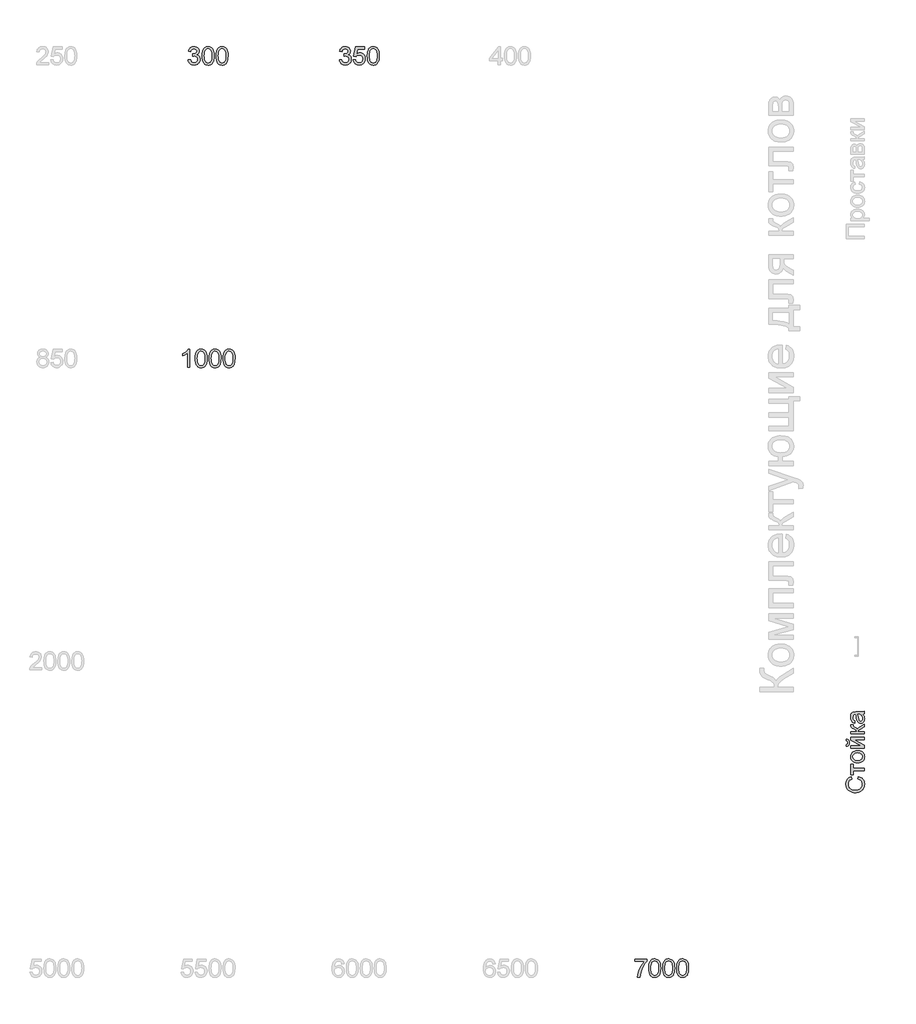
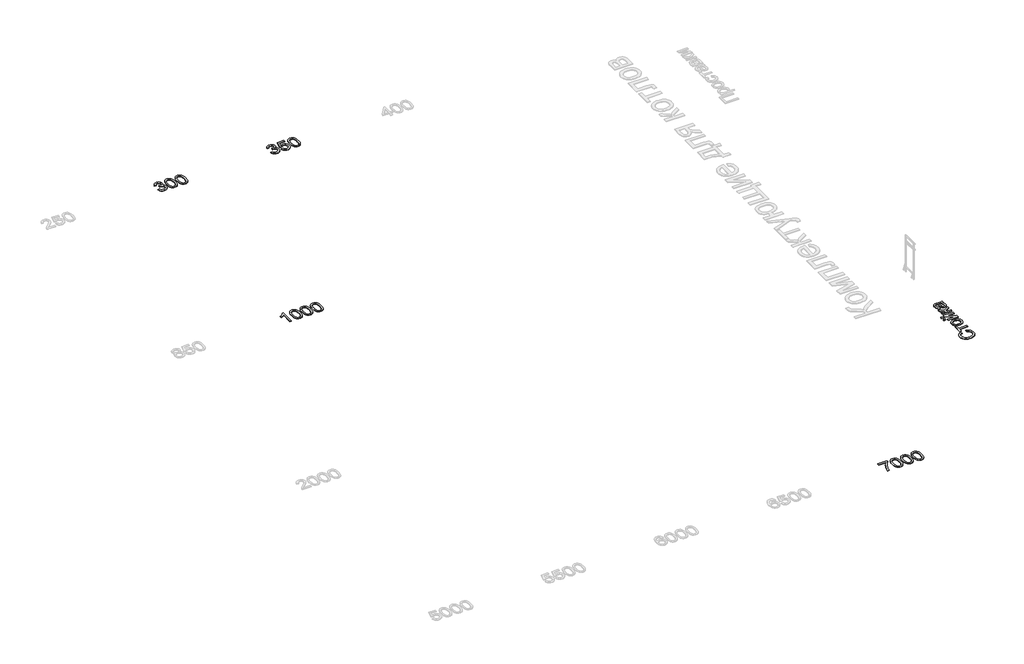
# One storey, part 6 of 8: 5 proxies.
"""IFC4 building model written with IfcOpenShell, lengths in millimetres."""

from ifc_helpers import new_model, si_unit, origin, origin_with_axes, place, context, project, spatial, polyline, outline, extrude, element, save

model = new_model("IFC4")

# Units and contexts
model_context = context("Model", 3, world=origin())
ifc_project = project(units=[si_unit("LENGTHUNIT", "METRE", prefix="MILLI")], contexts=[model_context])

# Site, building, storey
site = spatial("IfcSite", under=ifc_project)
building = spatial("IfcBuilding", under=site)
storey = spatial("IfcBuildingStorey", under=building, Name="Этаж 01", Elevation=0.0)

# Proxies
placement = place(None, origin())
element("IfcBuildingElementProxy", 1, Name="600 мм Arial", ObjectType="600 мм Arial", at=placement, inside=storey, context=model_context, shape_type="SweptSolid", body=[
    extrude(outline(polyline([(2945.4643542, -3535.7908528), (3020.8065868, -3526.3730738), (3037.6739763, -3573.7194865), (3049.0461284, -3591.6261427), (3062.3772522, -3605.6884319), (3077.9708503, -3616.3110245), (3096.1304253, -3623.8985907), (3116.8559772, -3628.4511304), (3140.147506, -3629.9686436), (3167.4443501, -3627.8809133), (3191.7981382, -3621.6177223), (3213.2088703, -3611.1790707), (3231.6765464, -3596.5649584), (3246.5481761, -3578.8698345), (3257.1707687, -3559.1881477), (3263.5443243, -3537.5198982), (3265.6688428, -3513.8650859), (3263.5627184, -3491.3369122), (3257.2443451, -3470.8412866), (3246.713723, -3452.378209), (3231.970852, -3435.9476793), (3213.9814225, -3422.4602057), (3193.7111245, -3412.8262959), (3171.1599582, -3407.0459501), (3146.3279235, -3405.1191682), (3122.5259585, -3407.1793073), (3093.500069, -3413.3597248), (3101.8877785, -3338.0174922), (3113.954308, -3338.900409), (3159.0934288, -3333.4925437), (3199.4500837, -3317.2689477), (3216.0599557, -3305.0000832), (3227.9241501, -3289.8249509), (3235.0426667, -3271.7435508), (3237.4155056, -3250.755883), (3235.6956572, -3233.7183481), (3230.5361122, -3218.2167205), (3221.9368706, -3204.2510003), (3209.8979323, -3191.8211873), (3195.1458643, -3181.6170605), (3178.4072335, -3174.3283985), (3138.9702836, -3168.4974689), (3118.3137096, -3169.9689968), (3099.4597574, -3174.3835808), (3082.4084269, -3181.7412207), (3067.1597182, -3192.0419165), (3054.0907103, -3205.2856684), (3043.5784823, -3221.4724762), (3035.6230341, -3240.6023399), (3030.2243659, -3262.6752596), (2954.8821333, -3253.2574805), (2963.8124687, -3217.2878185), (2977.0654176, -3185.6039816), (2994.6409799, -3158.20597), (3016.5391556, -3135.0937837), (3042.0701661, -3116.7456692), (3070.5442325, -3103.6398731), (3101.9613549, -3095.7763955), (3136.3215333, -3093.1552362), (3183.6863402, -3098.3239783), (3227.1883861, -3113.8302044), (3263.866221, -3138.294357), (3290.7583949, -3170.3368788), (3307.2579023, -3207.253837), (3312.7577382, -3246.341299), (3307.5338138, -3282.7616166), (3291.8620408, -3315.7974197), (3265.9631484, -3343.9403924), (3230.0578657, -3365.6822183), (3255.1658118, -3373.5364989), (3277.2203374, -3384.7385056), (3296.2214425, -3399.2882385), (3312.169127, -3417.1856976), (3324.7874794, -3437.9894244), (3333.8005883, -3461.2579606), (3339.2084536, -3486.9913062), (3341.0110754, -3515.1894611), (3337.4058318, -3553.4124004), (3326.5901012, -3588.6187073), (3308.5638834, -3620.8083819), (3283.3271786, -3649.9814241), (3252.5814408, -3674.1880594), (3218.0281244, -3691.4785132), (3179.6672294, -3701.8527855), (3137.4987557, -3705.3108762), (3099.386181, -3702.3586232), (3064.6581206, -3693.5018642), (3033.3145746, -3678.7405991), (3005.355543, -3658.074828), (2981.9122629, -3632.7185615), (2964.1159713, -3603.8858101), (2951.9666684, -3571.5765739), (2945.4643542, -3535.7908528)])), origin_with_axes(), (0.0, 0.0, 1.0), 20.0),
    extrude(outline(polyline([(3406.9355289, -3399.380209), (3412.472153, -3302.9031558), (3419.392933, -3261.9900794), (3429.082025, -3225.9606365), (3441.4980424, -3194.5205215), (3456.5995983, -3167.3754288), (3474.3866927, -3144.5253583), (3494.8593258, -3125.9703102), (3518.0864752, -3111.6137153), (3544.137119, -3101.3590047), (3573.0112571, -3095.2061784), (3604.7088895, -3093.1552362), (3651.1355973, -3098.0112786), (3692.7062628, -3112.5794056), (3727.4711113, -3136.2894002), (3753.4803684, -3168.5710453), (3773.1252669, -3209.1484293), (3788.7970399, -3257.7456409), (3799.0609476, -3319.4578456), (3802.4822501, -3399.380209), (3797.0008084, -3495.3054393), (3790.1490063, -3536.0805599), (3780.5564832, -3572.0640176), (3768.2370349, -3603.5179281), (3753.2044569, -3630.7044076), (3735.4587491, -3653.6234559), (3714.9999117, -3672.275073), (3691.7451711, -3686.7282369), (3665.6117538, -3697.0519254), (3636.59966, -3703.2461385), (3604.7088895, -3705.3108762), (3563.2118005, -3701.7240268), (3526.423601, -3690.9634784), (3494.344291, -3673.0292311), (3466.9738705, -3647.921285), (3440.7070961, -3602.5338438), (3421.9451143, -3545.9811841), (3410.6879253, -3478.2633058), (3406.9355289, -3399.380209)]), holes=[polyline([(3482.2777615, -3399.2330562), (3484.4850535, -3464.7298469), (3491.1069294, -3517.746241), (3502.1433893, -3558.2822383), (3517.5944331, -3586.337839), (3536.2828384, -3605.426316), (3557.031383, -3619.0609424), (3579.8400667, -3627.2417183), (3604.7088895, -3629.9686436), (3629.5777124, -3627.2325213), (3652.3863961, -3619.0241542), (3673.1349406, -3605.3435426), (3691.823346, -3586.1906862), (3707.2743898, -3558.0891003), (3718.3108496, -3517.5623), (3724.9327256, -3464.6102853), (3727.1400175, -3399.2330562), (3725.006302, -3335.4699094), (3718.6051552, -3283.3870159), (3707.9365774, -3242.9843758), (3693.0005684, -3214.2619891), (3674.6248627, -3194.2400115), (3653.6371949, -3179.9385989), (3630.0375649, -3171.3577514), (3603.8259727, -3168.4974689), (3579.0859086, -3171.0174605), (3556.663501, -3178.5774355), (3536.5587499, -3191.1773939), (3518.7716555, -3208.8173355), (3502.8055769, -3240.0873051), (3491.401235, -3282.2465818), (3484.5586299, -3335.2951655), (3482.2777615, -3399.2330562)])]), origin_with_axes(), (0.0, 0.0, 1.0), 20.0),
    extrude(outline(polyline([(3868.4067037, -3399.380209), (3873.9433277, -3302.9031558), (3880.8641077, -3261.9900794), (3890.5531998, -3225.9606365), (3902.9692171, -3194.5205215), (3918.070773, -3167.3754288), (3935.8578675, -3144.5253583), (3956.3305005, -3125.9703102), (3979.55765, -3111.6137153), (4005.6082938, -3101.3590047), (4034.4824319, -3095.2061784), (4066.1800643, -3093.1552362), (4112.6067721, -3098.0112786), (4154.1774375, -3112.5794056), (4188.9422861, -3136.2894002), (4214.9515431, -3168.5710453), (4234.5964417, -3209.1484293), (4250.2682147, -3257.7456409), (4260.5321223, -3319.4578456), (4263.9534249, -3399.380209), (4258.4719832, -3495.3054393), (4251.620181, -3536.0805599), (4242.027658, -3572.0640176), (4229.7082097, -3603.5179281), (4214.6756316, -3630.7044076), (4196.9299239, -3653.6234559), (4176.4710864, -3672.275073), (4153.2163458, -3686.7282369), (4127.0829286, -3697.0519254), (4098.0708347, -3703.2461385), (4066.1800643, -3705.3108762), (4024.6829752, -3701.7240268), (3987.8947757, -3690.9634784), (3955.8154657, -3673.0292311), (3928.4450453, -3647.921285), (3902.1782708, -3602.5338438), (3883.4162891, -3545.9811841), (3872.1591, -3478.2633058), (3868.4067037, -3399.380209)]), holes=[polyline([(3943.7489363, -3399.2330562), (3945.9562283, -3464.7298469), (3952.5781042, -3517.746241), (3963.614564, -3558.2822383), (3979.0656078, -3586.337839), (3997.7540132, -3605.426316), (4018.5025577, -3619.0609424), (4041.3112414, -3627.2417183), (4066.1800643, -3629.9686436), (4091.0488872, -3627.2325213), (4113.8575709, -3619.0241542), (4134.6061154, -3605.3435426), (4153.2945207, -3586.1906862), (4168.7455645, -3558.0891003), (4179.7820244, -3517.5623), (4186.4039003, -3464.6102853), (4188.6111923, -3399.2330562), (4186.4774767, -3335.4699094), (4180.07633, -3283.3870159), (4169.4077521, -3242.9843758), (4154.4717431, -3214.2619891), (4136.0960375, -3194.2400115), (4115.1083696, -3179.9385989), (4091.5087397, -3171.3577514), (4065.2971475, -3168.4974689), (4040.5570833, -3171.0174605), (4018.1346757, -3178.5774355), (3998.0299247, -3191.1773939), (3980.2428302, -3208.8173355), (3964.2767516, -3240.0873051), (3952.8724098, -3282.2465818), (3946.0298047, -3335.2951655), (3943.7489363, -3399.2330562)])]), origin_with_axes(), (0.0, 0.0, 1.0), 20.0),
])
element("IfcBuildingElementProxy", 2, Name="600 мм Arial", ObjectType="600 мм Arial", at=placement, inside=storey, context=model_context, shape_type="SweptSolid", body=[
    extrude(outline(polyline([(7945.4643542, -3535.7908528), (8020.8065868, -3526.3730738), (8037.6739763, -3573.7194865), (8049.0461284, -3591.6261427), (8062.3772522, -3605.6884319), (8077.9708503, -3616.3110245), (8096.1304253, -3623.8985907), (8116.8559772, -3628.4511304), (8140.147506, -3629.9686436), (8167.4443501, -3627.8809133), (8191.7981382, -3621.6177223), (8213.2088703, -3611.1790707), (8231.6765464, -3596.5649584), (8246.5481761, -3578.8698345), (8257.1707687, -3559.1881477), (8263.5443243, -3537.5198982), (8265.6688428, -3513.8650859), (8263.5627184, -3491.3369122), (8257.2443451, -3470.8412866), (8246.713723, -3452.378209), (8231.970852, -3435.9476793), (8213.9814225, -3422.4602057), (8193.7111245, -3412.8262959), (8171.1599582, -3407.0459501), (8146.3279235, -3405.1191682), (8122.5259585, -3407.1793073), (8093.500069, -3413.3597248), (8101.8877785, -3338.0174922), (8113.954308, -3338.900409), (8159.0934288, -3333.4925437), (8199.4500837, -3317.2689477), (8216.0599557, -3305.0000832), (8227.9241501, -3289.8249509), (8235.0426667, -3271.7435508), (8237.4155056, -3250.755883), (8235.6956572, -3233.7183481), (8230.5361122, -3218.2167205), (8221.9368706, -3204.2510003), (8209.8979323, -3191.8211873), (8195.1458643, -3181.6170605), (8178.4072335, -3174.3283985), (8138.9702836, -3168.4974689), (8118.3137096, -3169.9689968), (8099.4597574, -3174.3835808), (8082.4084269, -3181.7412207), (8067.1597182, -3192.0419165), (8054.0907103, -3205.2856684), (8043.5784823, -3221.4724762), (8035.6230341, -3240.6023399), (8030.2243659, -3262.6752596), (7954.8821333, -3253.2574805), (7963.8124687, -3217.2878185), (7977.0654176, -3185.6039816), (7994.6409799, -3158.20597), (8016.5391556, -3135.0937837), (8042.0701661, -3116.7456692), (8070.5442325, -3103.6398731), (8101.9613549, -3095.7763955), (8136.3215333, -3093.1552362), (8183.6863402, -3098.3239783), (8227.1883861, -3113.8302044), (8263.866221, -3138.294357), (8290.7583949, -3170.3368788), (8307.2579023, -3207.253837), (8312.7577382, -3246.341299), (8307.5338138, -3282.7616166), (8291.8620408, -3315.7974197), (8265.9631484, -3343.9403924), (8230.0578657, -3365.6822183), (8255.1658118, -3373.5364989), (8277.2203374, -3384.7385056), (8296.2214425, -3399.2882385), (8312.169127, -3417.1856976), (8324.7874794, -3437.9894244), (8333.8005883, -3461.2579606), (8339.2084536, -3486.9913062), (8341.0110754, -3515.1894611), (8337.4058318, -3553.4124004), (8326.5901012, -3588.6187073), (8308.5638834, -3620.8083819), (8283.3271786, -3649.9814241), (8252.5814408, -3674.1880594), (8218.0281244, -3691.4785132), (8179.6672294, -3701.8527855), (8137.4987557, -3705.3108762), (8099.386181, -3702.3586232), (8064.6581206, -3693.5018642), (8033.3145746, -3678.7405991), (8005.355543, -3658.074828), (7981.9122629, -3632.7185615), (7964.1159713, -3603.8858101), (7951.9666684, -3571.5765739), (7945.4643542, -3535.7908528)])), origin_with_axes(), (0.0, 0.0, 1.0), 20.0),
    extrude(outline(polyline([(8406.9355289, -3535.7908528), (8482.2777615, -3526.3730738), (8487.9063561, -3550.5935046), (8496.1101246, -3571.6041651), (8506.889067, -3589.4050551), (8520.2431834, -3603.9961747), (8536.1448827, -3615.3591299), (8554.5665736, -3623.4755264), (8575.5082562, -3628.3453643), (8598.9699304, -3629.9686436), (8627.664726, -3627.7107679), (8652.9750073, -3620.9371406), (8674.9007742, -3609.6477619), (8693.4420268, -3593.8426317), (8708.1848977, -3574.3034992), (8718.7155198, -3551.8121137), (8725.0338931, -3526.3684752), (8727.1400175, -3497.9725837), (8725.1672503, -3471.1355922), (8719.2489487, -3447.2784448), (8709.3851127, -3426.4011416), (8695.5757423, -3408.5036825), (8677.7748523, -3394.1470876), (8655.9364574, -3383.892377), (8630.0605575, -3377.7395507), (8600.1471528, -3375.6886085), (8563.5980766, -3378.9627583), (8534.0019701, -3388.7852076), (8510.3655519, -3403.8315812), (8491.6955406, -3422.7775039), (8416.353308, -3413.3597248), (8482.2777615, -3102.5730153), (8774.2289129, -3102.5730153), (8774.2289129, -3177.9152479), (8543.1990199, -3177.9152479), (8510.9725572, -3343.9036042), (8537.5612284, -3324.8473168), (8564.7936931, -3311.235683), (8592.6699512, -3303.0687027), (8621.1900029, -3300.3463759), (8657.8816334, -3303.7216932), (8691.5842227, -3313.8476451), (8722.2977708, -3330.7242317), (8750.0222776, -3354.3514528), (8772.9735156, -3383.2853717), (8789.367257, -3416.0820516), (8799.2035019, -3452.7414924), (8802.4822501, -3493.2636942), (8799.5299971, -3532.2959739), (8790.6732381, -3568.6059268), (8775.911973, -3602.193553), (8755.246202, -3633.0588524), (8723.9394442, -3664.6691128), (8687.4087621, -3687.2478703), (8645.6541556, -3700.7951247), (8598.6756248, -3705.3108762), (8559.7950965, -3702.409207), (8524.6761615, -3693.7041993), (8493.3188199, -3679.1958531), (8465.7230718, -3658.8841684), (8442.7626367, -3633.7808208), (8425.3112346, -3604.8974856), (8413.3688653, -3572.234163), (8406.9355289, -3535.7908528)])), origin_with_axes(), (0.0, 0.0, 1.0), 20.0),
    extrude(outline(polyline([(8868.4067037, -3399.380209), (8873.9433277, -3302.9031558), (8880.8641077, -3261.9900794), (8890.5531998, -3225.9606365), (8902.9692171, -3194.5205215), (8918.070773, -3167.3754288), (8935.8578675, -3144.5253583), (8956.3305005, -3125.9703102), (8979.55765, -3111.6137153), (9005.6082938, -3101.3590047), (9034.4824319, -3095.2061784), (9066.1800643, -3093.1552362), (9112.6067721, -3098.0112786), (9154.1774375, -3112.5794056), (9188.9422861, -3136.2894002), (9214.9515431, -3168.5710453), (9234.5964417, -3209.1484293), (9250.2682147, -3257.7456409), (9260.5321223, -3319.4578456), (9263.9534249, -3399.380209), (9258.4719832, -3495.3054393), (9251.620181, -3536.0805599), (9242.027658, -3572.0640176), (9229.7082097, -3603.5179281), (9214.6756316, -3630.7044076), (9196.9299239, -3653.6234559), (9176.4710864, -3672.275073), (9153.2163458, -3686.7282369), (9127.0829286, -3697.0519254), (9098.0708347, -3703.2461385), (9066.1800643, -3705.3108762), (9024.6829752, -3701.7240268), (8987.8947757, -3690.9634784), (8955.8154657, -3673.0292311), (8928.4450453, -3647.921285), (8902.1782708, -3602.5338438), (8883.4162891, -3545.9811841), (8872.1591, -3478.2633058), (8868.4067037, -3399.380209)]), holes=[polyline([(8943.7489363, -3399.2330562), (8945.9562283, -3464.7298469), (8952.5781042, -3517.746241), (8963.614564, -3558.2822383), (8979.0656078, -3586.337839), (8997.7540132, -3605.426316), (9018.5025577, -3619.0609424), (9041.3112414, -3627.2417183), (9066.1800643, -3629.9686436), (9091.0488872, -3627.2325213), (9113.8575709, -3619.0241542), (9134.6061154, -3605.3435426), (9153.2945207, -3586.1906862), (9168.7455645, -3558.0891003), (9179.7820244, -3517.5623), (9186.4039003, -3464.6102853), (9188.6111923, -3399.2330562), (9186.4774767, -3335.4699094), (9180.07633, -3283.3870159), (9169.4077521, -3242.9843758), (9154.4717431, -3214.2619891), (9136.0960375, -3194.2400115), (9115.1083696, -3179.9385989), (9091.5087397, -3171.3577514), (9065.2971475, -3168.4974689), (9040.5570833, -3171.0174605), (9018.1346757, -3178.5774355), (8998.0299247, -3191.1773939), (8980.2428302, -3208.8173355), (8964.2767516, -3240.0873051), (8952.8724098, -3282.2465818), (8946.0298047, -3335.2951655), (8943.7489363, -3399.2330562)])]), origin_with_axes(), (0.0, 0.0, 1.0), 20.0),
])
element("IfcBuildingElementProxy", 3, Name="600 мм Arial", ObjectType="600 мм Arial", at=placement, inside=storey, context=model_context, shape_type="SweptSolid", body=[
    extrude(outline(polyline([(2997.2621391, -13695.8930971), (2921.9199065, -13695.8930971), (2921.9199065, -13226.1813657), (2890.4659959, -13251.6204057), (2850.5507994, -13277.0226574), (2808.6490402, -13299.2243358), (2771.2354413, -13315.0616557), (2771.2354413, -13243.8397015), (2830.4092602, -13211.6500269), (2881.6736162, -13173.3535112), (2922.0854534, -13132.6289743), (2948.7017157, -13093.1552362), (2997.2621391, -13093.1552362), (2997.2621391, -13695.8930971)])), origin_with_axes(), (0.0, 0.0, 1.0), 20.0),
    extrude(outline(polyline([(3176.1999416, -13399.380209), (3181.7365656, -13302.9031558), (3188.6573456, -13261.9900794), (3198.3464377, -13225.9606365), (3210.762455, -13194.5205215), (3225.8640109, -13167.3754288), (3243.6511054, -13144.5253583), (3264.1237384, -13125.9703102), (3287.3508879, -13111.6137153), (3313.4015317, -13101.3590047), (3342.2756698, -13095.2061784), (3373.9733022, -13093.1552362), (3420.40001, -13098.0112786), (3461.9706754, -13112.5794056), (3496.735524, -13136.2894002), (3522.744781, -13168.5710453), (3542.3896796, -13209.1484293), (3558.0614525, -13257.7456409), (3568.3253602, -13319.4578456), (3571.7466628, -13399.380209), (3566.265221, -13495.3054393), (3559.4134189, -13536.0805599), (3549.8208959, -13572.0640176), (3537.5014475, -13603.5179281), (3522.4688695, -13630.7044076), (3504.7231618, -13653.6234559), (3484.2643243, -13672.275073), (3461.0095837, -13686.7282369), (3434.8761665, -13697.0519254), (3405.8640726, -13703.2461385), (3373.9733022, -13705.3108762), (3332.4762131, -13701.7240268), (3295.6880136, -13690.9634784), (3263.6087036, -13673.0292311), (3236.2382832, -13647.921285), (3209.9715087, -13602.5338438), (3191.209527, -13545.9811841), (3179.9523379, -13478.2633058), (3176.1999416, -13399.380209)]), holes=[polyline([(3251.5421742, -13399.2330562), (3253.7494661, -13464.7298469), (3260.3713421, -13517.746241), (3271.4078019, -13558.2822383), (3286.8588457, -13586.337839), (3305.5472511, -13605.426316), (3326.2957956, -13619.0609424), (3349.1044793, -13627.2417183), (3373.9733022, -13629.9686436), (3398.842125, -13627.2325213), (3421.6508087, -13619.0241542), (3442.3993533, -13605.3435426), (3461.0877586, -13586.1906862), (3476.5388024, -13558.0891003), (3487.5752623, -13517.5623), (3494.1971382, -13464.6102853), (3496.4044302, -13399.2330562), (3494.2707146, -13335.4699094), (3487.8695679, -13283.3870159), (3477.20099, -13242.9843758), (3462.264981, -13214.2619891), (3443.8892753, -13194.2400115), (3422.9016075, -13179.9385989), (3399.3019775, -13171.3577514), (3373.0903854, -13168.4974689), (3348.3503212, -13171.0174605), (3325.9279136, -13178.5774355), (3305.8231626, -13191.1773939), (3288.0360681, -13208.8173355), (3272.0699895, -13240.0873051), (3260.6656476, -13282.2465818), (3253.8230425, -13335.2951655), (3251.5421742, -13399.2330562)])]), origin_with_axes(), (0.0, 0.0, 1.0), 20.0),
    extrude(outline(polyline([(3637.6711163, -13399.380209), (3643.2077403, -13302.9031558), (3650.1285204, -13261.9900794), (3659.8176124, -13225.9606365), (3672.2336298, -13194.5205215), (3687.3351857, -13167.3754288), (3705.1222801, -13144.5253583), (3725.5949132, -13125.9703102), (3748.8220626, -13111.6137153), (3774.8727064, -13101.3590047), (3803.7468445, -13095.2061784), (3835.4444769, -13093.1552362), (3881.8711847, -13098.0112786), (3923.4418502, -13112.5794056), (3958.2066987, -13136.2894002), (3984.2159558, -13168.5710453), (4003.8608543, -13209.1484293), (4019.5326273, -13257.7456409), (4029.796535, -13319.4578456), (4033.2178375, -13399.380209), (4027.7363958, -13495.3054393), (4020.8845936, -13536.0805599), (4011.2920706, -13572.0640176), (3998.9726223, -13603.5179281), (3983.9400443, -13630.7044076), (3966.1943365, -13653.6234559), (3945.7354991, -13672.275073), (3922.4807584, -13686.7282369), (3896.3473412, -13697.0519254), (3867.3352474, -13703.2461385), (3835.4444769, -13705.3108762), (3793.9473879, -13701.7240268), (3757.1591883, -13690.9634784), (3725.0798784, -13673.0292311), (3697.7094579, -13647.921285), (3671.4426835, -13602.5338438), (3652.6807017, -13545.9811841), (3641.4235127, -13478.2633058), (3637.6711163, -13399.380209)]), holes=[polyline([(3713.0133489, -13399.2330562), (3715.2206409, -13464.7298469), (3721.8425168, -13517.746241), (3732.8789767, -13558.2822383), (3748.3300205, -13586.337839), (3767.0184258, -13605.426316), (3787.7669703, -13619.0609424), (3810.575654, -13627.2417183), (3835.4444769, -13629.9686436), (3860.3132998, -13627.2325213), (3883.1219835, -13619.0241542), (3903.870528, -13605.3435426), (3922.5589334, -13586.1906862), (3938.0099772, -13558.0891003), (3949.046437, -13517.5623), (3955.6683129, -13464.6102853), (3957.8756049, -13399.2330562), (3955.7418893, -13335.4699094), (3949.3407426, -13283.3870159), (3938.6721648, -13242.9843758), (3923.7361558, -13214.2619891), (3905.3604501, -13194.2400115), (3884.3727823, -13179.9385989), (3860.7731523, -13171.3577514), (3834.5615601, -13168.4974689), (3809.8214959, -13171.0174605), (3787.3990883, -13178.5774355), (3767.2943373, -13191.1773939), (3749.5072428, -13208.8173355), (3733.5411642, -13240.0873051), (3722.1368224, -13282.2465818), (3715.2942173, -13335.2951655), (3713.0133489, -13399.2330562)])]), origin_with_axes(), (0.0, 0.0, 1.0), 20.0),
    extrude(outline(polyline([(4099.1422911, -13399.380209), (4104.6789151, -13302.9031558), (4111.5996951, -13261.9900794), (4121.2887872, -13225.9606365), (4133.7048045, -13194.5205215), (4148.8063604, -13167.3754288), (4166.5934549, -13144.5253583), (4187.0660879, -13125.9703102), (4210.2932374, -13111.6137153), (4236.3438812, -13101.3590047), (4265.2180193, -13095.2061784), (4296.9156517, -13093.1552362), (4343.3423595, -13098.0112786), (4384.9130249, -13112.5794056), (4419.6778735, -13136.2894002), (4445.6871305, -13168.5710453), (4465.3320291, -13209.1484293), (4481.003802, -13257.7456409), (4491.2677097, -13319.4578456), (4494.6890123, -13399.380209), (4489.2075705, -13495.3054393), (4482.3557684, -13536.0805599), (4472.7632454, -13572.0640176), (4460.443797, -13603.5179281), (4445.411219, -13630.7044076), (4427.6655113, -13653.6234559), (4407.2066738, -13672.275073), (4383.9519332, -13686.7282369), (4357.818516, -13697.0519254), (4328.8064221, -13703.2461385), (4296.9156517, -13705.3108762), (4255.4185626, -13701.7240268), (4218.6303631, -13690.9634784), (4186.5510531, -13673.0292311), (4159.1806327, -13647.921285), (4132.9138582, -13602.5338438), (4114.1518765, -13545.9811841), (4102.8946874, -13478.2633058), (4099.1422911, -13399.380209)]), holes=[polyline([(4174.4845237, -13399.2330562), (4176.6918156, -13464.7298469), (4183.3136916, -13517.746241), (4194.3501514, -13558.2822383), (4209.8011952, -13586.337839), (4228.4896006, -13605.426316), (4249.2381451, -13619.0609424), (4272.0468288, -13627.2417183), (4296.9156517, -13629.9686436), (4321.7844745, -13627.2325213), (4344.5931582, -13619.0241542), (4365.3417028, -13605.3435426), (4384.0301081, -13586.1906862), (4399.4811519, -13558.0891003), (4410.5176118, -13517.5623), (4417.1394877, -13464.6102853), (4419.3467797, -13399.2330562), (4417.2130641, -13335.4699094), (4410.8119174, -13283.3870159), (4400.1433395, -13242.9843758), (4385.2073305, -13214.2619891), (4366.8316248, -13194.2400115), (4345.843957, -13179.9385989), (4322.244327, -13171.3577514), (4296.0327349, -13168.4974689), (4271.2926707, -13171.0174605), (4248.8702631, -13178.5774355), (4228.7655121, -13191.1773939), (4210.9784176, -13208.8173355), (4195.012339, -13240.0873051), (4183.6079971, -13282.2465818), (4176.765392, -13335.2951655), (4174.4845237, -13399.2330562)])]), origin_with_axes(), (0.0, 0.0, 1.0), 20.0),
])
element("IfcBuildingElementProxy", 4, Name="600 мм Arial", ObjectType="600 мм Arial", at=placement, inside=storey, context=model_context, shape_type="SweptSolid", body=[
    extrude(outline(polyline([(17714.7287668, -33330.3912577), (17714.7287668, -33255.0490251), (18110.275488, -33255.0490251), (18110.275488, -33315.9702835), (18053.8975723, -33387.3209965), (17998.0714795, -33478.0590906), (17948.8304744, -33579.9072209), (17928.9418541, -33631.8935454), (17912.2078218, -33684.5880427), (17894.2551805, -33762.9101194), (17884.2487902, -33848.3691069), (17808.9065576, -33848.3691069), (17817.0551438, -33770.7092177), (17838.852152, -33678.4076252), (17854.7216615, -33629.0424599), (17873.708971, -33580.5694085), (17895.8140804, -33532.988471), (17921.0369897, -33486.2996473), (17976.2928654, -33401.0797831), (18034.9332554, -33330.3912577), (17714.7287668, -33330.3912577)])), origin_with_axes(), (0.0, 0.0, 1.0), 20.0),
    extrude(outline(polyline([(18176.1999416, -33551.8562188), (18181.7365656, -33455.3791656), (18188.6573456, -33414.4660892), (18198.3464377, -33378.4366463), (18210.762455, -33346.9965313), (18225.8640109, -33319.8514386), (18243.6511054, -33297.0013681), (18264.1237384, -33278.44632), (18287.3508879, -33264.0897251), (18313.4015317, -33253.8350145), (18342.2756698, -33247.6821882), (18373.9733022, -33245.631246), (18420.40001, -33250.4872884), (18461.9706754, -33265.0554154), (18496.735524, -33288.76541), (18522.744781, -33321.047055), (18542.3896796, -33361.6244391), (18558.0614525, -33410.2216507), (18568.3253602, -33471.9338554), (18571.7466628, -33551.8562188), (18566.265221, -33647.7814491), (18559.4134189, -33688.5565697), (18549.8208959, -33724.5400273), (18537.5014475, -33755.9939379), (18522.4688695, -33783.1804174), (18504.7231618, -33806.0994657), (18484.2643243, -33824.7510828), (18461.0095837, -33839.2042467), (18434.8761665, -33849.5279352), (18405.8640726, -33855.7221483), (18373.9733022, -33857.786886), (18332.4762131, -33854.2000365), (18295.6880136, -33843.4394882), (18263.6087036, -33825.5052409), (18236.2382832, -33800.3972948), (18209.9715087, -33755.0098536), (18191.209527, -33698.4571939), (18179.9523379, -33630.7393156), (18176.1999416, -33551.8562188)]), holes=[polyline([(18251.5421742, -33551.709066), (18253.7494661, -33617.2058567), (18260.3713421, -33670.2222508), (18271.4078019, -33710.7582481), (18286.8588457, -33738.8138488), (18305.5472511, -33757.9023258), (18326.2957956, -33771.5369522), (18349.1044793, -33779.7177281), (18373.9733022, -33782.4446534), (18398.842125, -33779.7085311), (18421.6508087, -33771.500164), (18442.3993533, -33757.8195523), (18461.0877586, -33738.666696), (18476.5388024, -33710.5651101), (18487.5752623, -33670.0383098), (18494.1971382, -33617.0862951), (18496.4044302, -33551.709066), (18494.2707146, -33487.9459192), (18487.8695679, -33435.8630257), (18477.20099, -33395.4603856), (18462.264981, -33366.7379988), (18443.8892753, -33346.7160213), (18422.9016075, -33332.4146087), (18399.3019775, -33323.8337612), (18373.0903854, -33320.9734786), (18348.3503212, -33323.4934703), (18325.9279136, -33331.0534453), (18305.8231626, -33343.6534036), (18288.0360681, -33361.2933453), (18272.0699895, -33392.5633149), (18260.6656476, -33434.7225915), (18253.8230425, -33487.7711753), (18251.5421742, -33551.709066)])]), origin_with_axes(), (0.0, 0.0, 1.0), 20.0),
    extrude(outline(polyline([(18637.6711163, -33551.8562188), (18643.2077403, -33455.3791656), (18650.1285204, -33414.4660892), (18659.8176124, -33378.4366463), (18672.2336298, -33346.9965313), (18687.3351857, -33319.8514386), (18705.1222801, -33297.0013681), (18725.5949132, -33278.44632), (18748.8220626, -33264.0897251), (18774.8727064, -33253.8350145), (18803.7468445, -33247.6821882), (18835.4444769, -33245.631246), (18881.8711847, -33250.4872884), (18923.4418502, -33265.0554154), (18958.2066987, -33288.76541), (18984.2159558, -33321.047055), (19003.8608543, -33361.6244391), (19019.5326273, -33410.2216507), (19029.796535, -33471.9338554), (19033.2178375, -33551.8562188), (19027.7363958, -33647.7814491), (19020.8845936, -33688.5565697), (19011.2920706, -33724.5400273), (18998.9726223, -33755.9939379), (18983.9400443, -33783.1804174), (18966.1943365, -33806.0994657), (18945.7354991, -33824.7510828), (18922.4807584, -33839.2042467), (18896.3473412, -33849.5279352), (18867.3352474, -33855.7221483), (18835.4444769, -33857.786886), (18793.9473879, -33854.2000365), (18757.1591883, -33843.4394882), (18725.0798784, -33825.5052409), (18697.7094579, -33800.3972948), (18671.4426835, -33755.0098536), (18652.6807017, -33698.4571939), (18641.4235127, -33630.7393156), (18637.6711163, -33551.8562188)]), holes=[polyline([(18713.0133489, -33551.709066), (18715.2206409, -33617.2058567), (18721.8425168, -33670.2222508), (18732.8789767, -33710.7582481), (18748.3300205, -33738.8138488), (18767.0184258, -33757.9023258), (18787.7669703, -33771.5369522), (18810.575654, -33779.7177281), (18835.4444769, -33782.4446534), (18860.3132998, -33779.7085311), (18883.1219835, -33771.500164), (18903.870528, -33757.8195523), (18922.5589334, -33738.666696), (18938.0099772, -33710.5651101), (18949.046437, -33670.0383098), (18955.6683129, -33617.0862951), (18957.8756049, -33551.709066), (18955.7418893, -33487.9459192), (18949.3407426, -33435.8630257), (18938.6721648, -33395.4603856), (18923.7361558, -33366.7379988), (18905.3604501, -33346.7160213), (18884.3727823, -33332.4146087), (18860.7731523, -33323.8337612), (18834.5615601, -33320.9734786), (18809.8214959, -33323.4934703), (18787.3990883, -33331.0534453), (18767.2943373, -33343.6534036), (18749.5072428, -33361.2933453), (18733.5411642, -33392.5633149), (18722.1368224, -33434.7225915), (18715.2942173, -33487.7711753), (18713.0133489, -33551.709066)])]), origin_with_axes(), (0.0, 0.0, 1.0), 20.0),
    extrude(outline(polyline([(19099.1422911, -33551.8562188), (19104.6789151, -33455.3791656), (19111.5996951, -33414.4660892), (19121.2887872, -33378.4366463), (19133.7048045, -33346.9965313), (19148.8063604, -33319.8514386), (19166.5934549, -33297.0013681), (19187.0660879, -33278.44632), (19210.2932374, -33264.0897251), (19236.3438812, -33253.8350145), (19265.2180193, -33247.6821882), (19296.9156517, -33245.631246), (19343.3423595, -33250.4872884), (19384.9130249, -33265.0554154), (19419.6778735, -33288.76541), (19445.6871305, -33321.047055), (19465.3320291, -33361.6244391), (19481.003802, -33410.2216507), (19491.2677097, -33471.9338554), (19494.6890123, -33551.8562188), (19489.2075705, -33647.7814491), (19482.3557684, -33688.5565697), (19472.7632454, -33724.5400273), (19460.443797, -33755.9939379), (19445.411219, -33783.1804174), (19427.6655113, -33806.0994657), (19407.2066738, -33824.7510828), (19383.9519332, -33839.2042467), (19357.818516, -33849.5279352), (19328.8064221, -33855.7221483), (19296.9156517, -33857.786886), (19255.4185626, -33854.2000365), (19218.6303631, -33843.4394882), (19186.5510531, -33825.5052409), (19159.1806327, -33800.3972948), (19132.9138582, -33755.0098536), (19114.1518765, -33698.4571939), (19102.8946874, -33630.7393156), (19099.1422911, -33551.8562188)]), holes=[polyline([(19174.4845237, -33551.709066), (19176.6918156, -33617.2058567), (19183.3136916, -33670.2222508), (19194.3501514, -33710.7582481), (19209.8011952, -33738.8138488), (19228.4896006, -33757.9023258), (19249.2381451, -33771.5369522), (19272.0468288, -33779.7177281), (19296.9156517, -33782.4446534), (19321.7844745, -33779.7085311), (19344.5931582, -33771.500164), (19365.3417028, -33757.8195523), (19384.0301081, -33738.666696), (19399.4811519, -33710.5651101), (19410.5176118, -33670.0383098), (19417.1394877, -33617.0862951), (19419.3467797, -33551.709066), (19417.2130641, -33487.9459192), (19410.8119174, -33435.8630257), (19400.1433395, -33395.4603856), (19385.2073305, -33366.7379988), (19366.8316248, -33346.7160213), (19345.843957, -33332.4146087), (19322.244327, -33323.8337612), (19296.0327349, -33320.9734786), (19271.2926707, -33323.4934703), (19248.8702631, -33331.0534453), (19228.7655121, -33343.6534036), (19210.9784176, -33361.2933453), (19195.012339, -33392.5633149), (19183.6079971, -33434.7225915), (19176.765392, -33487.7711753), (19174.4845237, -33551.709066)])]), origin_with_axes(), (0.0, 0.0, 1.0), 20.0),
])
element("IfcBuildingElementProxy", 5, Name="600 мм Arial", ObjectType="600 мм Arial", at=placement, inside=storey, context=model_context, shape_type="SweptSolid", body=[
    extrude(outline(polyline([(25089.0089723, -27295.9864939), (25108.4331416, -27220.6442613), (25155.2875122, -27235.5526791), (25196.2281798, -27255.4091098), (25231.2551442, -27280.2135533), (25260.3684056, -27309.9660097), (25283.2552643, -27343.9950943), (25299.6030204, -27381.6294224), (25309.4116741, -27422.868994), (25312.6812253, -27467.7138092), (25310.2072189, -27513.6576719), (25302.7851997, -27555.1041772), (25290.4151676, -27592.0533251), (25273.0971227, -27624.5051156), (25251.0885823, -27652.9056056), (25224.6470639, -27677.7008521), (25193.7725675, -27698.890855), (25158.465093, -27716.4756144), (25120.2513507, -27730.2849848), (25080.658051, -27740.1488208), (25039.6851938, -27746.0671224), (24997.3327791, -27748.0398896), (24951.8901556, -27745.809605), (24909.4457704, -27739.1187512), (24869.9996235, -27727.9673282), (24833.5517148, -27712.355336), (24800.7044512, -27692.6322626), (24772.0602393, -27669.1475957), (24747.6190793, -27641.9013354), (24727.380971, -27610.8934818), (24711.5114615, -27577.1770969), (24700.1760975, -27541.8052431), (24693.3748791, -27504.7779203), (24691.1078063, -27466.0951285), (24694.0416652, -27423.0023513), (24702.8432419, -27383.4872264), (24717.5125365, -27347.549754), (24738.0495489, -27315.189934), (24763.9116531, -27286.9411953), (24794.5562233, -27263.3369668), (24829.9832595, -27244.3772485), (24870.1927615, -27230.0620404), (24888.1454029, -27305.404273), (24858.5171067, -27317.2684673), (24833.2022269, -27331.5238946), (24812.2007635, -27348.1705549), (24795.5127165, -27367.2084482), (24782.7977951, -27388.747939), (24773.7157083, -27412.899392), (24768.2664563, -27439.6628071), (24766.4500389, -27469.0381844), (24768.4641928, -27502.8373427), (24774.5066546, -27533.7486274), (24784.5774242, -27561.7720384), (24798.6765017, -27586.9075757), (24816.1692906, -27608.8379411), (24836.4211944, -27627.2458364), (24859.4322132, -27642.1312617), (24885.202347, -27653.4942168), (24940.347858, -27667.8967969), (24997.1856263, -27672.697657), (25066.7888998, -27667.0138801), (25098.0588694, -27659.9091591), (25126.9743942, -27649.9625497), (25152.9606586, -27637.0131034), (25175.442847, -27620.899872), (25194.4209595, -27601.6228555), (25209.8949959, -27579.1820538), (25221.9017445, -27554.6673173), (25230.4779935, -27529.1684965), (25235.6237429, -27502.6855914), (25237.3389927, -27475.2186019), (25235.0029421, -27442.4633088), (25227.9947901, -27412.3291749), (25216.3145367, -27384.8162002), (25199.962182, -27359.9243847), (25179.0113024, -27338.2423396), (25153.5354742, -27320.3586761), (25123.5346975, -27306.2733942), (25089.0089723, -27295.9864939)])), origin_with_axes(), (0.0, 0.0, 1.0), 20.0),
    extrude(outline(polyline([(24860.6278297, -27164.1375868), (24860.6278297, -26806.2619819), (24935.9700623, -26806.2619819), (24935.9700623, -26947.5286681), (25303.2634463, -26947.5286681), (25303.2634463, -27022.8709007), (24935.9700623, -27022.8709007), (24935.9700623, -27164.1375868), (24860.6278297, -27164.1375868)])), origin_with_axes(), (0.0, 0.0, 1.0), 20.0),
    extrude(outline(polyline([(25081.945638, -26759.1730865), (25024.6204261, -26755.0987934), (24975.2230712, -26742.8759141), (24933.7535733, -26722.5044487), (24900.2119324, -26693.984397), (24878.7736091, -26665.2712073), (24863.460521, -26633.5781734), (24854.2726682, -26598.9052953), (24851.2100506, -26561.2525731), (24854.9394543, -26519.6865062), (24866.1276655, -26482.1027619), (24884.7746841, -26448.5013401), (24910.8805102, -26418.882241), (24943.562227, -26394.7077954), (24981.9369176, -26377.4403342), (25026.0045821, -26367.0798575), (25075.7652205, -26363.6263653), (25116.0942842, -26365.1530756), (25151.8800053, -26369.7332064), (25183.1223837, -26377.3667578), (25209.8214195, -26388.0537298), (25232.8830221, -26401.6607651), (25253.2131008, -26418.0545065), (25270.8116558, -26437.234954), (25285.6786869, -26459.2021077), (25297.4922975, -26483.1006418), (25305.9305907, -26508.0752307), (25310.9935667, -26534.1258745), (25312.6812253, -26561.2525731), (25308.9656172, -26603.4256453), (25297.8187927, -26641.3588776), (25279.240752, -26675.0522698), (25253.2314949, -26704.505822), (25220.23248, -26728.4227503), (25180.6851655, -26745.5062704), (25134.5895515, -26755.7563825), (25081.945638, -26759.1730865)]), holes=[polyline([(25081.7984852, -26683.8308539), (25118.3429629, -26681.6511531), (25149.985413, -26675.1120506), (25176.7258355, -26664.2135465), (25198.5642304, -26648.9556408), (25215.5281889, -26630.3959941), (25227.6453022, -26609.5922673), (25234.9155701, -26586.5444603), (25237.3389927, -26561.2525731), (25234.9017745, -26536.0894447), (25227.5901199, -26513.1336082), (25215.4040288, -26492.3850636), (25198.3435012, -26473.8438111), (25176.2889756, -26458.5859053), (25149.1208903, -26447.6874012), (25116.8392452, -26441.1482987), (25079.4440404, -26438.9685979), (25044.058391, -26441.1620943), (25013.2436754, -26447.7425835), (24986.9998935, -26458.7100655), (24965.3270455, -26474.0645403), (24948.363087, -26492.6747707), (24936.2459738, -26513.4095197), (24928.9757059, -26536.2687871), (24926.5522832, -26561.2525731), (24928.9665088, -26586.5444603), (24936.2091856, -26609.5922673), (24948.2803135, -26630.3959941), (24965.1798927, -26648.9556408), (24986.9539083, -26664.2135465), (25013.6483456, -26675.1120506), (25045.2632045, -26681.6511531), (25081.7984852, -26683.8308539)])]), origin_with_axes(), (0.0, 0.0, 1.0), 20.0),
    extrude(outline(polyline([(24860.6278297, -26278.8663536), (24860.6278297, -26203.524121), (25198.1963484, -26203.524121), (24860.6278297, -26018.405901), (24860.6278297, -25920.9907487), (25303.2634463, -25920.9907487), (25303.2634463, -25996.3329813), (24967.7550667, -25996.3329813), (25303.2634463, -26180.2739789), (25303.2634463, -26278.8663536), (24860.6278297, -26278.8663536)])), origin_with_axes(), (0.0, 0.0, 1.0), 20.0),
    extrude(outline(polyline([(24700.5255854, -26034.0040976), (24700.5255854, -25977.4974232), (24726.2359383, -25982.0453643), (24748.773309, -25989.6559231), (24768.1376976, -26000.3290995), (24784.3291039, -26014.0648935), (24797.1084047, -26030.5873936), (24806.2364767, -26049.6206883), (24811.7133199, -26071.1647777), (24813.5389343, -26095.2196616), (24811.7271155, -26121.3484803), (24806.291659, -26144.69979), (24797.2325649, -26165.2735906), (24784.5498331, -26183.0698821), (24768.4274046, -26197.8311471), (24749.0492205, -26209.2998683), (24726.4152808, -26217.4760457), (24700.5255854, -26222.3596792), (24700.5255854, -26165.8530047), (24725.3392259, -26157.9067536), (24742.9791676, -26144.6630018), (24753.5189868, -26126.0481728), (24757.0322598, -26101.9886903), (24753.6293514, -26074.8389991), (24743.420626, -26055.1941006), (24725.8910489, -26041.9503487), (24700.5255854, -26034.0040976)])), origin_with_axes(), (0.0, 0.0, 1.0), 20.0),
    extrude(outline(polyline([(24860.6278297, -25807.9773998), (24860.6278297, -25732.6351672), (25048.9834112, -25732.6351672), (25045.5988968, -25701.990597), (25035.4453538, -25682.1617574), (25008.9578501, -25664.6137863), (24956.571454, -25640.8118212), (24913.7315957, -25621.6267751), (24888.5132849, -25606.4516428), (24874.7728924, -25592.288186), (24866.3667888, -25576.1381664), (24862.0625695, -25553.7893352), (24860.6278297, -25521.0294436), (24860.6278297, -25506.6084694), (24936.4115207, -25506.6084694), (24935.9700623, -25526.9155555), (24937.9566251, -25550.4600032), (24943.9163134, -25563.703755), (24960.5077914, -25574.4459093), (24993.5068063, -25589.6026475), (25026.5610036, -25605.5135438), (25047.1440012, -25619.9897003), (25060.8843937, -25637.5192773), (25073.4107757, -25662.5904353), (25084.0149742, -25638.7148938), (25102.7309707, -25615.0600815), (25129.5587652, -25591.6259984), (25164.4983577, -25568.4126445), (25303.2634463, -25487.7729112), (25303.2634463, -25573.4158397), (25167.4414137, -25652.4368922), (25131.2970076, -25673.774048), (25109.978246, -25692.1681477), (25099.5487914, -25710.7461885), (25096.0723066, -25732.6351672), (25303.2634463, -25732.6351672), (25303.2634463, -25807.9773998), (24860.6278297, -25807.9773998)])), origin_with_axes(), (0.0, 0.0, 1.0), 20.0),
    extrude(outline(polyline([(25246.7567718, -25158.1506435), (25277.6220712, -25194.1478967), (25297.8187927, -25231.2120078), (25308.9656172, -25270.1891052), (25312.6812253, -25311.9253175), (25310.4463422, -25345.4715569), (25303.7416929, -25374.888321), (25292.5672773, -25400.1756096), (25276.9230954, -25421.3334229), (25257.8024287, -25438.039864), (25236.1985585, -25449.9730362), (25212.1114849, -25457.1329395), (25185.5412078, -25459.519574), (25154.3080264, -25455.9143304), (25125.9443246, -25445.0985998), (25101.6641129, -25428.4151513), (25082.681402, -25407.2067543), (25068.3340041, -25382.2827491), (25057.9597319, -25354.4524761), (25046.6289664, -25289.2637866), (25034.7095898, -25212.2292968), (25020.730074, -25158.5921019), (25003.954655, -25158.1506435), (24970.3302406, -25163.3377797), (24957.8774351, -25169.8216998), (24948.3308973, -25178.899188), (24938.8027536, -25194.5893551), (24931.9969367, -25213.7008248), (24926.5522832, -25262.1876718), (24930.1759209, -25307.0692752), (24941.0468338, -25338.4128212), (24961.1515849, -25359.7867651), (24992.4767367, -25374.7595623), (24983.0589577, -25450.1017949), (24941.8561742, -25437.02359), (24909.4825586, -25417.5074501), (24884.7241004, -25389.7323595), (24866.3667888, -25351.8773022), (24854.9992351, -25305.5793531), (24851.2100506, -25252.4755871), (24854.5577768, -25201.5423249), (24864.6009552, -25161.1672759), (24879.7025111, -25130.7250408), (24898.2253696, -25109.5902202), (24921.1260238, -25095.5739161), (24949.3609669, -25086.4872309), (25015.2854204, -25082.8084109), (25109.0217528, -25082.8084109), (25239.9141667, -25078.9824382), (25272.2693882, -25073.3170554), (25303.2634463, -25063.9728528), (25303.2634463, -25139.3150854), (25277.0702482, -25151.3816148), (25246.7567718, -25158.1506435)]), holes=[polyline([(25096.0723066, -25158.1506435), (25108.6170826, -25208.7712061), (25119.1752959, -25279.6988547), (25131.3889781, -25344.5196623), (25139.7398994, -25361.3870518), (25151.2546059, -25373.8766455), (25165.0501807, -25381.6021674), (25180.2437071, -25384.1773414), (25202.6477206, -25378.5671409), (25221.0050321, -25361.7365397), (25233.2555026, -25334.0534195), (25237.3389927, -25295.8856625), (25232.8324383, -25255.418643), (25219.312775, -25219.6605131), (25199.3919649, -25190.6714119), (25175.6819703, -25170.5114786), (25151.2546059, -25161.5719461), (25117.4094623, -25158.5921019), (25096.0723066, -25158.1506435)])]), origin_with_axes(), (0.0, 0.0, 1.0), 20.0),
])

save(model, "model.ifc")
